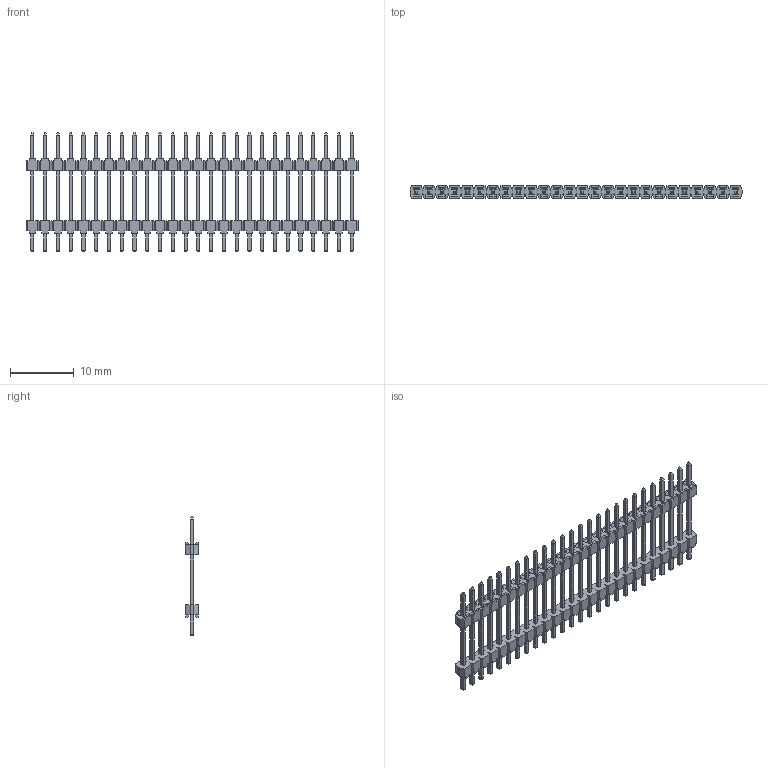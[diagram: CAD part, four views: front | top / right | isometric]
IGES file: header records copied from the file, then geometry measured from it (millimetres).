
Global section: file name: N:\GOLF_VI_2mm_UGII\9514XX_901XX06_AR\951426-9012206-AR.igs; native system: NX V3.0; preprocessor: UGS NX IGES V4.0; date: 20070314.114509; units: millimetre
Bounding box: 52 x 2 x 18.6 mm (x, y, z)
Surface area: 1750.7 mm2 (no closed solid volume)
Topology: 0 solids, 0 shells, 1308 faces, 7097 edges, 7097 vertices
Faces by surface type: bspline 1308
